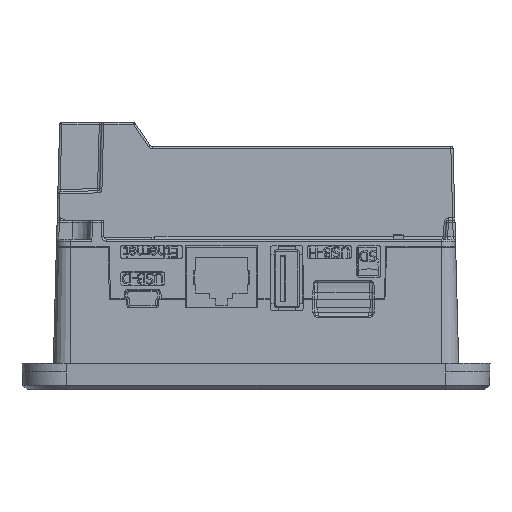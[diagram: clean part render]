
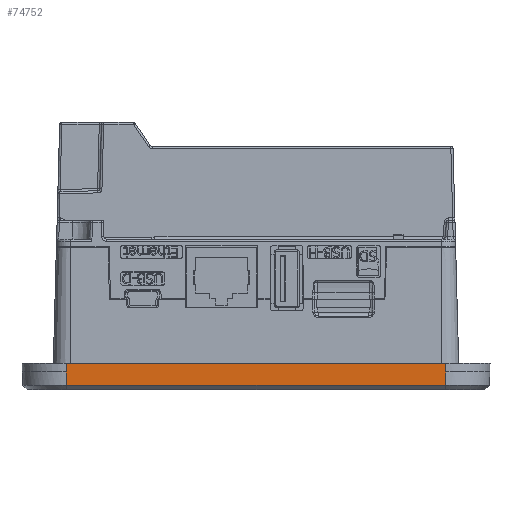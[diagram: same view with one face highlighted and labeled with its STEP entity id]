
A CAD part, left-side view. The second image highlights one B-rep face of the part: STEP entity #74752.
In plain terms, the highlighted planar face has unit normal (-1, 0, -0.026).
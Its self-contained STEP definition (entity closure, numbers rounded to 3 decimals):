
#1026 = VERTEX_POINT ( 'NONE', #12312 ) ;
#3565 = EDGE_CURVE ( 'NONE', #87155, #66053, #11862, .T. ) ;
#5360 = FACE_OUTER_BOUND ( 'NONE', #91644, .T. ) ;
#6068 = DIRECTION ( 'NONE',  ( -0.026, -0.026, 0.999 ) ) ;
#7663 = VECTOR ( 'NONE', #6068, 1000. ) ;
#10716 = EDGE_CURVE ( 'NONE', #56217, #1026, #70597, .T. ) ;
#10852 = VECTOR ( 'NONE', #95350, 1000. ) ;
#11862 = LINE ( 'NONE', #52091, #49384 ) ;
#12312 = CARTESIAN_POINT ( 'NONE',  ( -60.441, -45.158, -50.75 ) ) ;
#13623 = CARTESIAN_POINT ( 'NONE',  ( -60.271, -44.987, -57.26 ) ) ;
#14372 = CARTESIAN_POINT ( 'NONE',  ( -60.336, 50.95, -54.75 ) ) ;
#14887 = VECTOR ( 'NONE', #41546, 1000. ) ;
#16229 = VERTEX_POINT ( 'NONE', #21222 ) ;
#21222 = CARTESIAN_POINT ( 'NONE',  ( -60.362, -45.079, -53.75 ) ) ;
#21580 = PLANE ( 'NONE',  #92763 ) ;
#26974 = CARTESIAN_POINT ( 'NONE',  ( -60.441, 41.058, -50.75 ) ) ;
#28007 = CARTESIAN_POINT ( 'NONE',  ( -60.362, 50.95, -53.75 ) ) ;
#29151 = CARTESIAN_POINT ( 'NONE',  ( -60.493, 50.95, -48.75 ) ) ;
#30309 = ORIENTED_EDGE ( 'NONE', *, *, #10716, .F. ) ;
#31698 = LINE ( 'NONE', #28007, #51543 ) ;
#34973 = CARTESIAN_POINT ( 'NONE',  ( -60.362, 40.98, -53.75 ) ) ;
#35158 = EDGE_CURVE ( 'NONE', #16229, #1026, #85026, .T. ) ;
#36151 = EDGE_CURVE ( 'NONE', #66053, #73509, #46229, .T. ) ;
#37004 = DIRECTION ( 'NONE',  ( -0.026, 0., 1. ) ) ;
#41546 = DIRECTION ( 'NONE',  ( 0., -1., 0. ) ) ;
#43028 = CARTESIAN_POINT ( 'NONE',  ( -60.441, -45.158, -50.75 ) ) ;
#43855 = VECTOR ( 'NONE', #96368, 1000. ) ;
#46229 = LINE ( 'NONE', #73854, #43855 ) ;
#48778 = EDGE_CURVE ( 'NONE', #73509, #16229, #31698, .T. ) ;
#49384 = VECTOR ( 'NONE', #89474, 1000. ) ;
#50277 = ORIENTED_EDGE ( 'NONE', *, *, #54173, .F. ) ;
#51543 = VECTOR ( 'NONE', #95815, 1000. ) ;
#52091 = CARTESIAN_POINT ( 'NONE',  ( -60.441, 41.058, -50.75 ) ) ;
#54173 = EDGE_CURVE ( 'NONE', #87155, #56217, #94532, .T. ) ;
#55271 = ORIENTED_EDGE ( 'NONE', *, *, #35158, .T. ) ;
#56217 = VERTEX_POINT ( 'NONE', #91223 ) ;
#66053 = VERTEX_POINT ( 'NONE', #26974 ) ;
#70597 = LINE ( 'NONE', #43028, #10852 ) ;
#73509 = VERTEX_POINT ( 'NONE', #34973 ) ;
#73854 = CARTESIAN_POINT ( 'NONE',  ( -60.343, 40.961, -54.489 ) ) ;
#74752 = ADVANCED_FACE ( 'NONE', ( #5360 ), #21580, .T. ) ;
#78209 = CARTESIAN_POINT ( 'NONE',  ( -60.493, 41.058, -48.75 ) ) ;
#81814 = DIRECTION ( 'NONE',  ( -1., 0., -0.026 ) ) ;
#85026 = LINE ( 'NONE', #13623, #7663 ) ;
#87155 = VERTEX_POINT ( 'NONE', #78209 ) ;
#88963 = ORIENTED_EDGE ( 'NONE', *, *, #48778, .T. ) ;
#89474 = DIRECTION ( 'NONE',  ( 0.026, 0., -1. ) ) ;
#91223 = CARTESIAN_POINT ( 'NONE',  ( -60.493, -45.158, -48.75 ) ) ;
#91644 = EDGE_LOOP ( 'NONE', ( #50277, #93468, #95503, #88963, #55271, #30309 ) ) ;
#92763 = AXIS2_PLACEMENT_3D ( 'NONE', #14372, #81814, #37004 ) ;
#93468 = ORIENTED_EDGE ( 'NONE', *, *, #3565, .T. ) ;
#94532 = LINE ( 'NONE', #29151, #14887 ) ;
#95350 = DIRECTION ( 'NONE',  ( 0.026, 0., -1. ) ) ;
#95503 = ORIENTED_EDGE ( 'NONE', *, *, #36151, .T. ) ;
#95815 = DIRECTION ( 'NONE',  ( 0., -1., 0. ) ) ;
#96368 = DIRECTION ( 'NONE',  ( 0.026, -0.026, -0.999 ) ) ;
